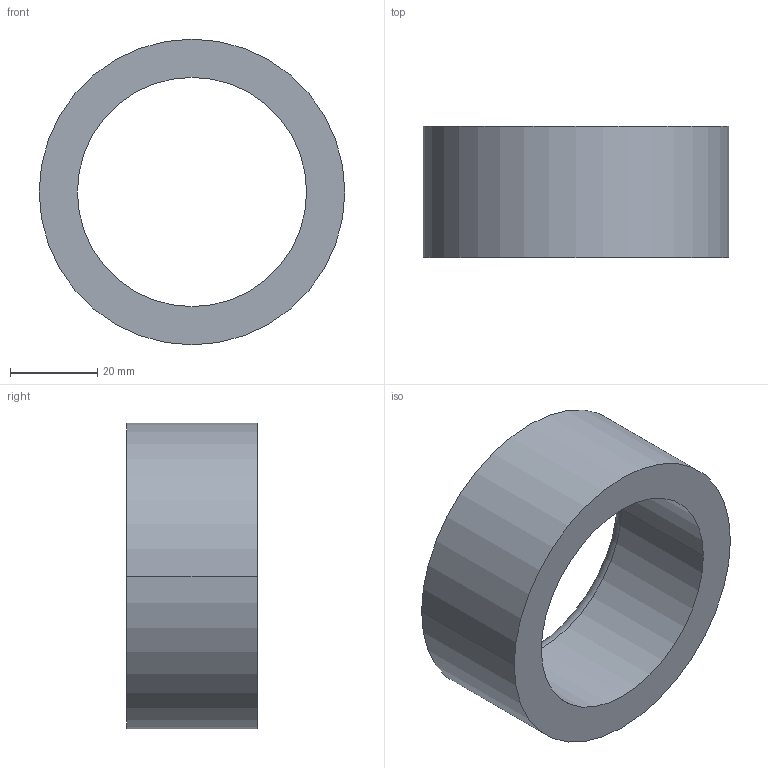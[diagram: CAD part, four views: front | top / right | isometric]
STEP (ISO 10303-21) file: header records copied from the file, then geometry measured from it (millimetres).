
FILE_DESCRIPTION (( 'STEP AP203' ), '1' );
FILE_NAME ('30800.WPP70L52.5.step', '2019-01-23T23:00:36', ( '' ), ( '' ), 'SwSTEP 2.0', 'SolidWorks 2017', '' );
FILE_SCHEMA (( 'CONFIG_CONTROL_DESIGN' ));
Length unit declared in the file: millimetre
Products named in the file (1): 30800.WPP70L52.5
Bounding box: 70 x 30 x 70 mm (x, y, z)
Volume: 50064.4 mm3; surface area: 14670.4 mm2
Topology: 1 solids, 1 shells, 8 faces, 16 edges, 10 vertices
Faces by surface type: cylinder 4, torus 2, plane 2
Entity records: 297 total; most frequent: DIRECTION 46, CARTESIAN_POINT 35, ORIENTED_EDGE 32, AXIS2_PLACEMENT_3D 21, EDGE_CURVE 16, CIRCLE 12, VERTEX_POINT 10, EDGE_LOOP 10
